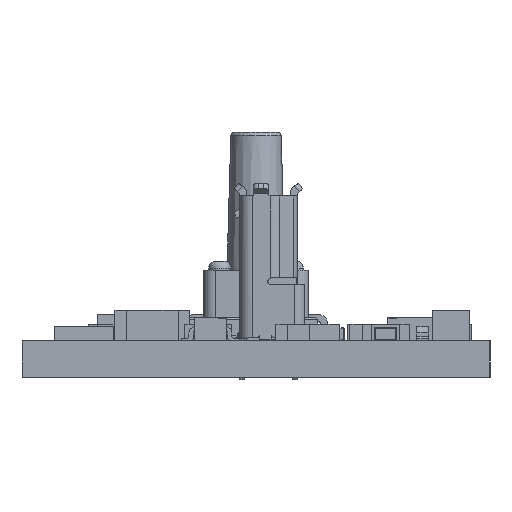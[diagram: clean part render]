
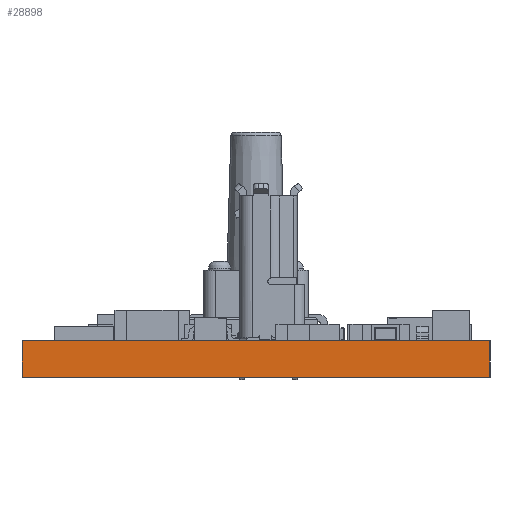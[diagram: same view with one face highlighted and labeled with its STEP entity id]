
A CAD part, left-side view. The second image highlights one B-rep face of the part: STEP entity #28898.
In plain terms, the highlighted planar face has unit normal (-1, 0, 0).
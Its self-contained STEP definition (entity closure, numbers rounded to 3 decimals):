
#1397=PLANE('',#30545);
#2304=FACE_OUTER_BOUND('',#3500,.T.);
#3500=EDGE_LOOP('',(#21290,#21291,#21292,#21293));
#4952=LINE('',#41235,#8293);
#4960=LINE('',#41250,#8301);
#4961=LINE('',#41252,#8302);
#4962=LINE('',#41253,#8303);
#8293=VECTOR('',#33312,10.);
#8301=VECTOR('',#33324,10.);
#8302=VECTOR('',#33327,10.);
#8303=VECTOR('',#33328,10.);
#12806=VERTEX_POINT('',#41232);
#12807=VERTEX_POINT('',#41234);
#12811=VERTEX_POINT('',#41246);
#12812=VERTEX_POINT('',#41248);
#16688=EDGE_CURVE('',#12806,#12807,#4952,.T.);
#16696=EDGE_CURVE('',#12811,#12812,#4960,.T.);
#16697=EDGE_CURVE('',#12806,#12811,#4961,.T.);
#16698=EDGE_CURVE('',#12807,#12812,#4962,.T.);
#21290=ORIENTED_EDGE('',*,*,#16697,.T.);
#21291=ORIENTED_EDGE('',*,*,#16696,.T.);
#21292=ORIENTED_EDGE('',*,*,#16698,.F.);
#21293=ORIENTED_EDGE('',*,*,#16688,.F.);
#28898=ADVANCED_FACE('',(#2304),#1397,.T.);
#30545=AXIS2_PLACEMENT_3D('',#41251,#33325,#33326);
#33312=DIRECTION('',(0.,0.,1.));
#33324=DIRECTION('',(0.,0.,1.));
#33325=DIRECTION('center_axis',(-1.,0.,0.));
#33326=DIRECTION('ref_axis',(0.,-1.,0.));
#33327=DIRECTION('',(0.,-1.,0.));
#33328=DIRECTION('',(0.,-1.,0.));
#41232=CARTESIAN_POINT('',(0.,20.,0.));
#41234=CARTESIAN_POINT('',(0.,20.,1.57));
#41235=CARTESIAN_POINT('',(0.,20.,0.));
#41246=CARTESIAN_POINT('',(0.,0.,0.));
#41248=CARTESIAN_POINT('',(0.,0.,1.57));
#41250=CARTESIAN_POINT('',(0.,0.,0.));
#41251=CARTESIAN_POINT('Origin',(0.,20.,0.));
#41252=CARTESIAN_POINT('',(0.,20.,0.));
#41253=CARTESIAN_POINT('',(0.,20.,1.57));
